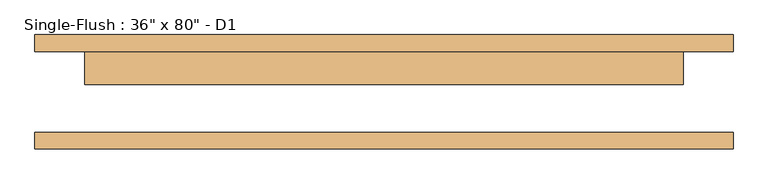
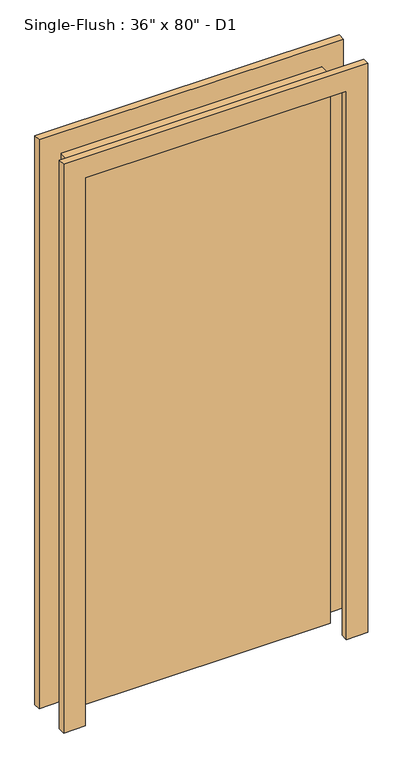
"""IFC4 building model written with IfcOpenShell, lengths in millimetres: door geometry."""

from ifc_helpers import new_model, si_unit, frame, origin, origin_with_axes, place, context, project, spatial, polyline, outline, extrude, source, transform, mapped, element, save


def door_43f271b1(model_context):
    return source(origin(), model_context, "Body", "SweptSolid", [
        extrude(outline(polyline([(2108.2, -533.4), (0.0, -533.4), (0.0, -457.2), (2032.0, -457.2), (2032.0, 457.2), (0.0, 457.2), (0.0, 533.4), (2108.2, 533.4), (2108.2, -533.4)])), frame((0.0, 61.9125, 0.0), z_axis=(0.0, 1.0, 0.0), x_axis=(0.0, 0.0, 1.0)), (0.0, 0.0, 1.0), 25.4),
        extrude(outline(polyline([(2108.2, 533.4), (2108.2, -533.4), (0.0, -533.4), (0.0, -457.2), (2032.0, -457.2), (2032.0, 457.2), (0.0, 457.2), (0.0, 533.4), (2108.2, 533.4)])), frame((0.0, -87.3125, 0.0), z_axis=(0.0, 1.0, 0.0), x_axis=(0.0, 0.0, 1.0)), (0.0, 0.0, 1.0), 25.4),
        extrude(outline(polyline([(457.2, 11.1125), (-457.2, 11.1125), (-457.2, 61.9125), (457.2, 61.9125), (457.2, 11.1125)])), origin_with_axes(), (0.0, 0.0, 1.0), 2032.0),
    ])


if __name__ == "__main__":
    model = new_model("IFC4")
    model_context = context("Model", 3, world=origin())
    ifc_project = project(units=[si_unit("LENGTHUNIT", "METRE", prefix="MILLI")], contexts=[model_context])
    site = spatial("IfcSite", under=ifc_project)
    building = spatial("IfcBuilding", under=site)
    placement = place(None, origin())
    door_shape = door_43f271b1(model_context)
    element("IfcDoor", 1, ObjectType="Single-Flush : 36\" x 80\" - D1", at=placement, inside=building, context=model_context, shape_type="MappedRepresentation", body=[
        mapped(door_shape, transform((0.0, 0.0, 0.0), x_axis=(1.0, 0.0, 0.0), y_axis=(0.0, 1.0, 0.0), z_axis=(0.0, 0.0, 1.0))),
    ])
    save(model, "model.ifc")
